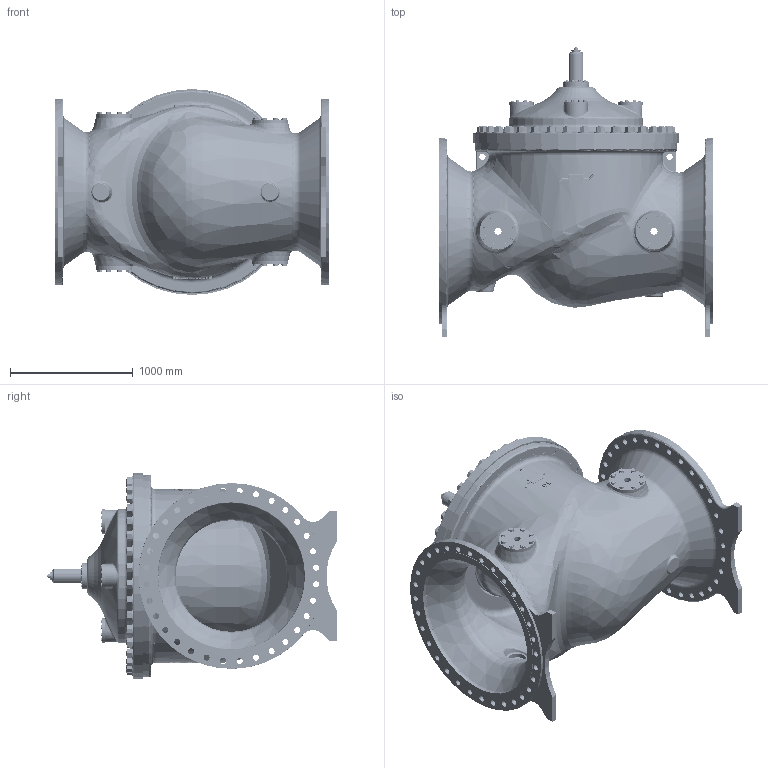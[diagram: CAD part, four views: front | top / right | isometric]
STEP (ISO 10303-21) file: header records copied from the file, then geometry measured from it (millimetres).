
FILE_DESCRIPTION(/* description */ ('DN 1200 / PN 16'),/* implementation_level */ '2;1');
FILE_NAME(/* name */ 'G:\Doc_Liberes\SymbolesCAD\Modeles_3D\FichierSTP\VanneDeBase\TytanL1200-16RF.stp',/* time_stamp */ '2019-02-15T15:25:04+01:00',/* author */ ('sylvain'),/* organization */ (''),/* preprocessor_version */ 'ST-DEVELOPER v17',/* originating_system */ 'Autodesk Inventor 2018',/* authorisation */ '');
FILE_SCHEMA (('AUTOMOTIVE_DESIGN { 1 0 10303 214 3 1 1 }'));
Products named in the file (37): VBT1HT12002-KCOS-R5005 ; 210681-01A; 210266-01D; 203440-02G; 01171J; 204336-02B; CDN0700; 57980; ANSI B18.3 - 5/16 - 18 UNC - 3/4 HS HCS; 203443-04B; TyLmobil; 203436-02C; 204024-01K; 203438-01B; 203876-01A; 209982-03G; 209909-01J; 209964-01A; ANSI B18.6.3 - 1/2-13 x 2 1/2; 203879-04E; 203880-13A; ANSI B18.22.1 - 1 3/4 - Type A; ANSI B18.2.1 - 1/2-13 UNC - 2; ANSI B18.22.1 - 1/2 - proche - Type B; 58502; 00893; ISO 4017 - M16 x 50; ISO 7089 - 16 - 140 HV; 01167G; 58008; ISO 4017 - M24 x 60; ISO 7089 - 24 - 140 HV; 57983; BGT0001; BGT2001; BGT1001; ANSI B18.3 - 1/2-13 UNC x 1
Assembly tree (336 placements, depth 3):
  VBT1HT12002-KCOS-R5005 
    210681-01A
    210266-01D
    203440-02G
    01171J
    204336-02B  x2
    CDN0700
    57980
    ANSI B18.3 - 5/16 - 18 UNC - 3/4 HS HCS  x4
    203443-04B
    TyLmobil
      203436-02C
      204024-01K
      203438-01B
      203876-01A
      209982-03G
      209909-01J
      209964-01A
      ANSI B18.3 - 1/2-13 UNC x 1  x10
    ANSI B18.6.3 - 1/2-13 x 2 1/2  x24
    203879-04E  x36
    203880-13A  x36
    ANSI B18.22.1 - 1 3/4 - Type A  x36
    ANSI B18.2.1 - 1/2-13 UNC - 2  x10
    ANSI B18.22.1 - 1/2 - proche - Type B  x10
    58502  x4
    00893  x4
    ISO 4017 - M16 x 50  x32
    ISO 7089 - 16 - 140 HV  x32
    01167G  x4
    58008  x4
    ISO 4017 - M24 x 60  x32
    ISO 7089 - 24 - 140 HV  x32
    57983
    BGT0001
    BGT2001  x2
    BGT1001  x2
    ANSI B18.3 - 1/2-13 UNC x 1  x3
Bounding box: 2235.2 x 2367.8 x 1676.4 mm (x, y, z)
Volume: 803878307.4 mm3; surface area: 46510014.1 mm2
Topology: 335 solids, 335 shells, 7010 faces, 16993 edges, 10774 vertices
Faces by surface type: plane 2364, cylinder 1646, cone 1495, bspline 1059, torus 311, sphere 135
Full cylindrical faces by diameter (mm): 4.31 x1, 5.36 x1, 6.35 x1, 6.528 x8, 7.925 x5, 8 x1, 8.611 x1, 9 x8, 9.728 x1, 10.592 x4, 10.716 x69, 11.125 x2, 11.913 x4, 12.7 x47, 13 x24, 13.16 x2, 13.487 x20, 13.835 x32, 14 x8, 14.275 x2, 14.95 x1, 16 x32, 16.662 x2, 17 x32, 17.145 x10, 17.294 x1, 18 x32, 19 x1, 19.05 x1, 20.64 x1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
Entity records: 266880 total; most frequent: CARTESIAN_POINT 177814, ORIENTED_EDGE 18656, DIRECTION 17630, EDGE_CURVE 9328, AXIS2_PLACEMENT_3D 7543, VERTEX_POINT 6056, EDGE_LOOP 4362, CIRCLE 4290
